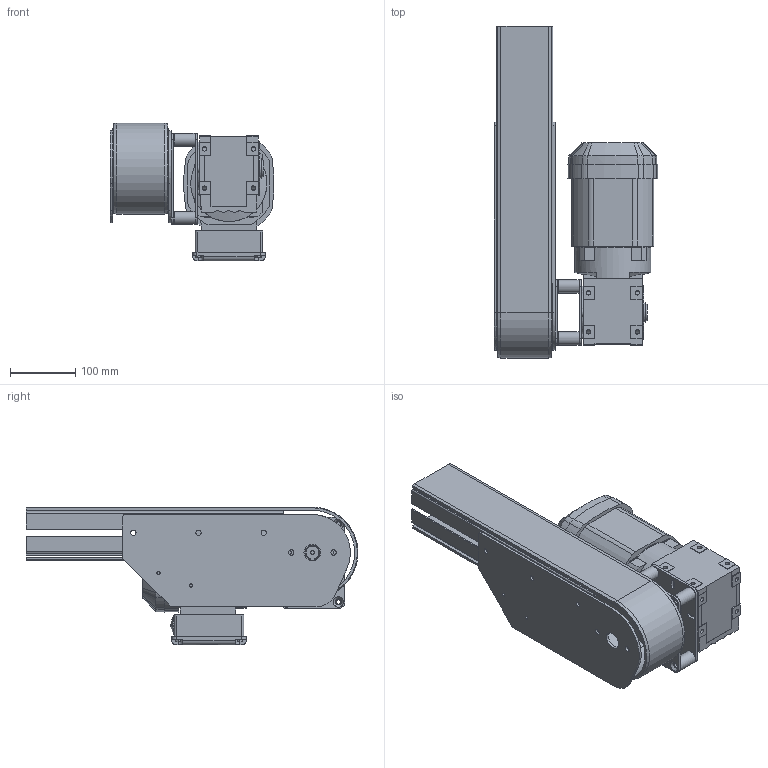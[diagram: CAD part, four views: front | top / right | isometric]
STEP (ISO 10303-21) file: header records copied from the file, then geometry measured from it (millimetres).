
FILE_DESCRIPTION((''),'2;1');
FILE_NAME('C:\Vault Klient\Projekt\Koncept konstruktion\Serie 530 Drivenhet\530-3315V.stp','2011-03-02T15:33:44',('Mathias'),(''),'Autodesk Inventor 2011','Autodesk Inventor 2011','');
FILE_SCHEMA(('AUTOMOTIVE_DESIGN { 1 0 10303 214 1 1 1 1 }'));
Length unit declared in the file: millimetre
Products named in the file (1): 530-3315V
Bounding box: 251.64 x 509.96 x 211.8 mm (x, y, z)
Volume: 5533348.2 mm3; surface area: 733638.3 mm2
Topology: 1 solids, 4 shells, 686 faces, 1859 edges, 1215 vertices
Faces by surface type: plane 413, cylinder 227, cone 28, bspline 16, sphere 2
Full cylindrical faces by diameter (mm): 5 x4, 6 x9, 6.6 x8, 6.647 x4, 8 x6, 8.2 x4, 8.5 x4, 10 x4, 20 x5, 25 x1, 26 x2, 28 x1, 30 x2, 37 x1, 117 x1
Entity records: 22180 total; most frequent: CARTESIAN_POINT 4142, DIRECTION 3600, ORIENTED_EDGE 3520, EDGE_CURVE 1760, AXIS2_PLACEMENT_3D 1215, VERTEX_POINT 1193, VECTOR 1170, LINE 1170
